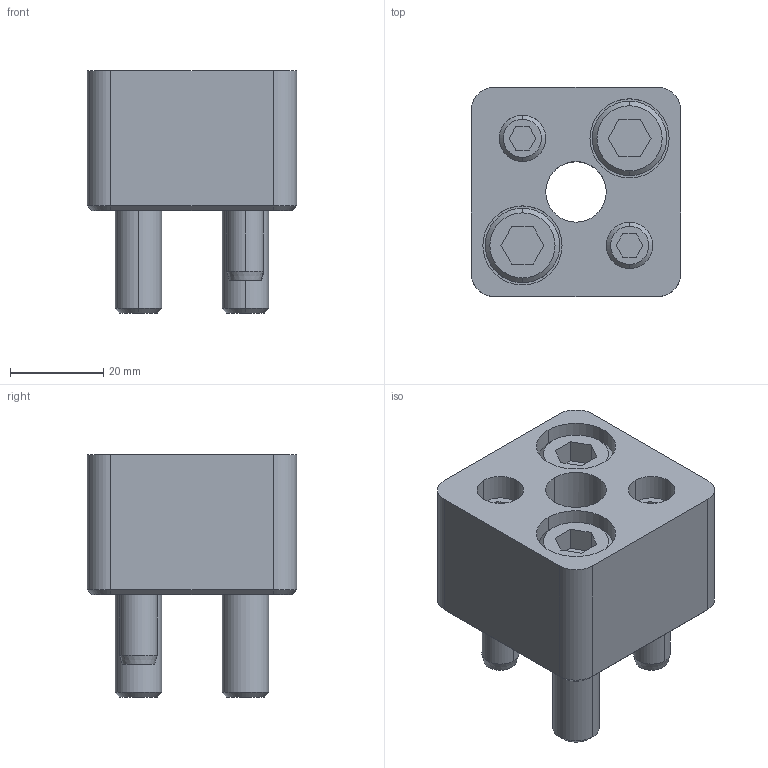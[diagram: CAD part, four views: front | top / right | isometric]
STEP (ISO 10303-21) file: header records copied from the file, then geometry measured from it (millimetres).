
FILE_DESCRIPTION(/* description */ (''),/* implementation_level */ '2;1');
FILE_NAME(/* name */ '3d_hmpdr13_04136_r00.stp',/* time_stamp */ '2011-01-10T14:14:42+09:00',/* author */ ('MISUMI'),/* organization */ (''),/* preprocessor_version */ 'ST-DEVELOPER v11',/* originating_system */ 'UGS - NX 5.0',/* authorisation */ '');
FILE_SCHEMA (('CONFIG_CONTROL_DESIGN'));
Length unit declared in the file: millimetre
Products named in the file (1): 3d_hmpdr13_04136_r00
Bounding box: 45 x 45 x 52 mm (x, y, z)
Volume: 56445 mm3; surface area: 21210.5 mm2
Topology: 7 solids, 7 shells, 147 faces, 326 edges, 207 vertices
Faces by surface type: plane 66, cylinder 51, cone 30
Entity records: 4196 total; most frequent: DIRECTION 744, CARTESIAN_POINT 740, ORIENTED_EDGE 652, EDGE_CURVE 326, AXIS2_PLACEMENT_3D 281, VERTEX_POINT 207, LINE 182, VECTOR 182
